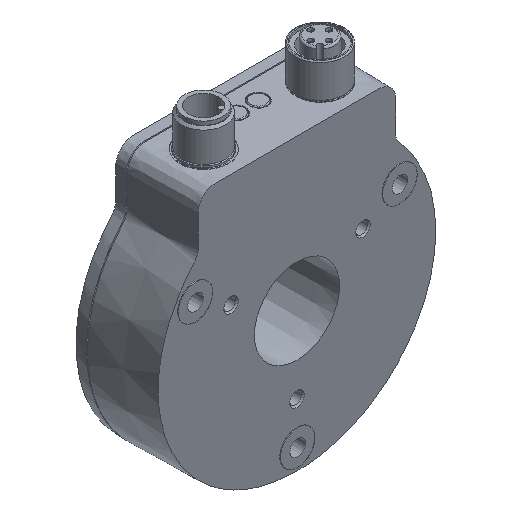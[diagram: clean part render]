
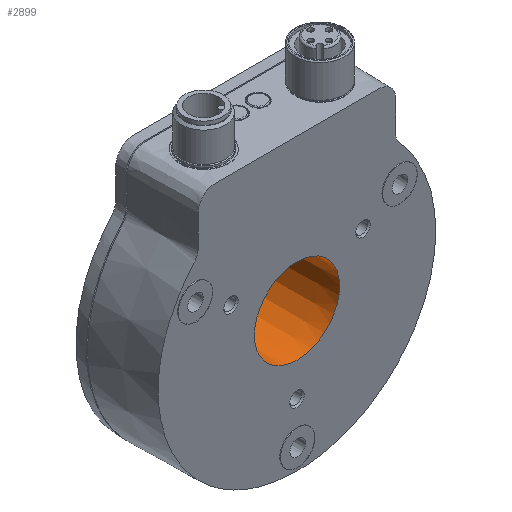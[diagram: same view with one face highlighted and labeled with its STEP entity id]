
A CAD part, isometric view. The second image highlights one B-rep face of the part: STEP entity #2899.
In plain terms, the highlighted conical face has half-angle 2 degrees and reference radius 11.726 mm.
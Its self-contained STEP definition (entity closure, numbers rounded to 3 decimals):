
#33 = CARTESIAN_POINT ( 'NONE',  ( 0., 0., -42. ) ) ;
#356 = ORIENTED_EDGE ( 'NONE', *, *, #2222, .F. ) ;
#383 = CARTESIAN_POINT ( 'NONE',  ( 0., 20.8, -42. ) ) ;
#413 = CARTESIAN_POINT ( 'NONE',  ( 0., 20.8, -53. ) ) ;
#732 = CONICAL_SURFACE ( 'NONE', #3037, 11.726, 0.035 ) ;
#825 = ORIENTED_EDGE ( 'NONE', *, *, #2965, .T. ) ;
#925 = AXIS2_PLACEMENT_3D ( 'NONE', #383, #2429, #2071 ) ;
#1272 = VERTEX_POINT ( 'NONE', #413 ) ;
#1419 = DIRECTION ( 'NONE',  ( 0., -1., 0. ) ) ;
#1668 = FACE_OUTER_BOUND ( 'NONE', #3884, .T. ) ;
#1715 = DIRECTION ( 'NONE',  ( 0., 0., -1. ) ) ;
#1877 = AXIS2_PLACEMENT_3D ( 'NONE', #33, #1419, #1715 ) ;
#1960 = DIRECTION ( 'NONE',  ( 0., 0., -1. ) ) ;
#2071 = DIRECTION ( 'NONE',  ( 0., 0., -1. ) ) ;
#2222 = EDGE_CURVE ( 'NONE', #1272, #1272, #2925, .T. ) ;
#2379 = VERTEX_POINT ( 'NONE', #3407 ) ;
#2429 = DIRECTION ( 'NONE',  ( 0., -1., 0. ) ) ;
#2899 = ADVANCED_FACE ( 'NONE', ( #3289, #1668 ), #732, .F. ) ;
#2925 = CIRCLE ( 'NONE', #925, 11. ) ;
#2965 = EDGE_CURVE ( 'NONE', #2379, #2379, #3900, .T. ) ;
#3037 = AXIS2_PLACEMENT_3D ( 'NONE', #3338, #3321, #1960 ) ;
#3289 = FACE_BOUND ( 'NONE', #3391, .T. ) ;
#3321 = DIRECTION ( 'NONE',  ( 0., -1., 0. ) ) ;
#3338 = CARTESIAN_POINT ( 'NONE',  ( 0., 0., -42. ) ) ;
#3391 = EDGE_LOOP ( 'NONE', ( #356 ) ) ;
#3407 = CARTESIAN_POINT ( 'NONE',  ( 0., 0., -53.726 ) ) ;
#3884 = EDGE_LOOP ( 'NONE', ( #825 ) ) ;
#3900 = CIRCLE ( 'NONE', #1877, 11.726 ) ;
